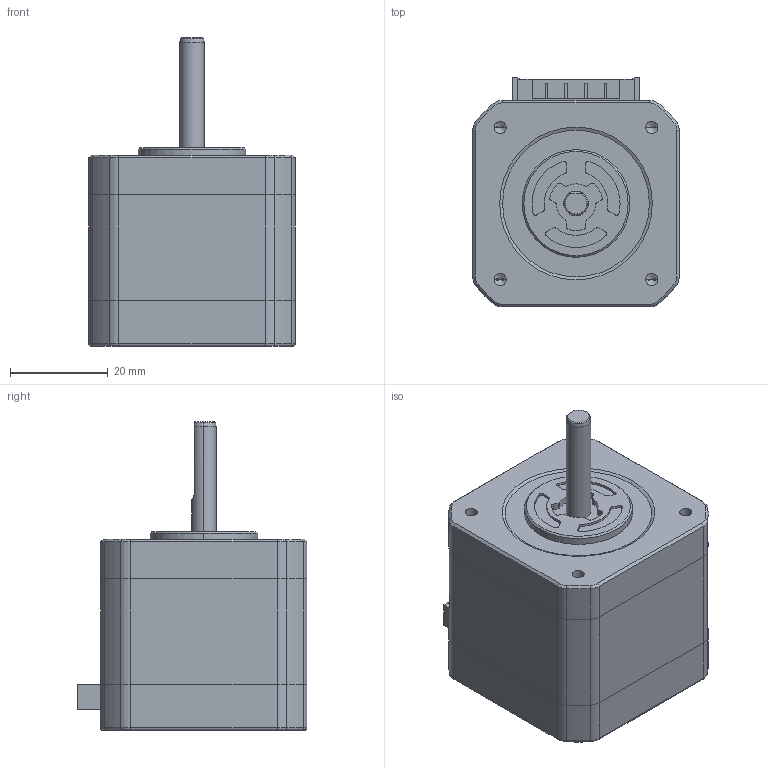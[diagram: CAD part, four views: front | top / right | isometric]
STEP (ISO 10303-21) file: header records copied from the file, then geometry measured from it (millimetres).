
FILE_DESCRIPTION (( 'STEP AP203' ), '1' );
FILE_NAME ('SF2422-10B41.STEP', '2019-08-08T09:54:48', ( 'sanyodenki-admin' ), ( '' ), 'SwSTEP 2.0', 'SolidWorks 2017', '' );
FILE_SCHEMA (( 'CONFIG_CONTROL_DESIGN' ));
Length unit declared in the file: millimetre
Products named in the file (1): SF2422-10B41
Bounding box: 42.15 x 46.98 x 63.1 mm (x, y, z)
Volume: 67689.9 mm3; surface area: 19244 mm2
Topology: 11 solids, 11 shells, 445 faces, 1120 edges, 710 vertices
Faces by surface type: plane 196, cylinder 181, cone 46, torus 14, bspline 8
Entity records: 13485 total; most frequent: CARTESIAN_POINT 2518, DIRECTION 2384, ORIENTED_EDGE 2212, EDGE_CURVE 1106, AXIS2_PLACEMENT_3D 858, VERTEX_POINT 710, VECTOR 668, LINE 668
